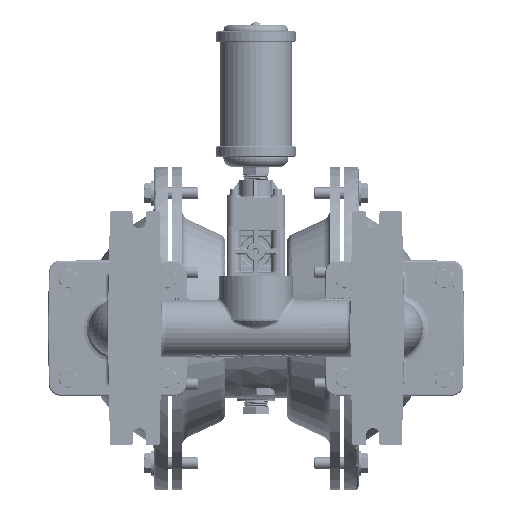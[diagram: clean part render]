
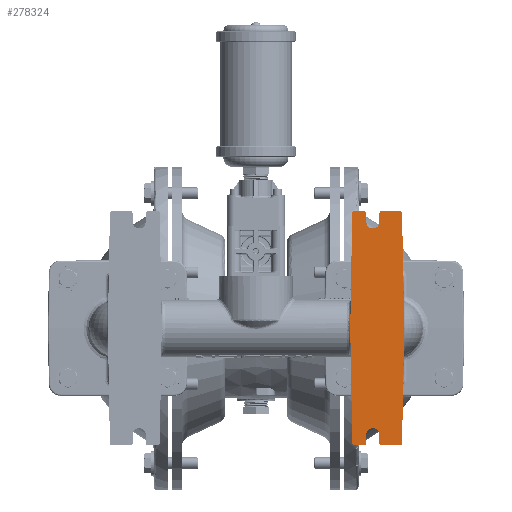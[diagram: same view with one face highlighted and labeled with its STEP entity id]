
A CAD part, front view. The second image highlights one B-rep face of the part: STEP entity #278324.
In plain terms, the highlighted planar face has unit normal (0, -1, 0).
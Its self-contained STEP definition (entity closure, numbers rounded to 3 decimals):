
#38768=DIRECTION('',(-0.017,0.,1.));
#38769=VECTOR('',#38768,4.942);
#38770=CARTESIAN_POINT('',(4.118,-12.94,-4.941));
#38771=LINE('',#38770,#38769);
#38844=DIRECTION('',(-1.,0.,0.));
#38845=VECTOR('',#38844,0.848);
#38846=CARTESIAN_POINT('',(6.19,-12.94,5.));
#38847=LINE('',#38846,#38845);
#38860=CARTESIAN_POINT('',(5.342,-12.94,4.94));
#38861=DIRECTION('',(0.,1.,0.));
#38862=DIRECTION('',(-1.,0.,0.009));
#38863=AXIS2_PLACEMENT_3D('',#38860,#38861,#38862);
#38870=DIRECTION('',(-0.009,0.,-1.));
#38871=VECTOR('',#38870,0.393);
#38872=CARTESIAN_POINT('',(5.282,-12.94,4.941));
#38873=LINE('',#38872,#38871);
#38886=CARTESIAN_POINT('',(4.999,-12.94,4.55));
#38887=DIRECTION('',(0.,-1.,0.));
#38888=DIRECTION('',(-1.,0.,-0.009));
#38889=AXIS2_PLACEMENT_3D('',#38886,#38887,#38888);
#39020=DIRECTION('',(-0.009,0.,1.));
#39021=VECTOR('',#39020,0.393);
#39022=CARTESIAN_POINT('',(4.719,-12.94,4.548));
#39023=LINE('',#39022,#39021);
#39032=CARTESIAN_POINT('',(4.656,-12.94,4.94));
#39033=DIRECTION('',(0.,1.,0.));
#39034=DIRECTION('',(0.,0.,1.));
#39035=AXIS2_PLACEMENT_3D('',#39032,#39033,#39034);
#39042=DIRECTION('',(-1.,0.,0.));
#39043=VECTOR('',#39042,0.478);
#39044=CARTESIAN_POINT('',(4.656,-12.94,5.));
#39045=LINE('',#39044,#39043);
#39058=CARTESIAN_POINT('',(4.178,-12.94,4.94));
#39059=DIRECTION('',(0.,-1.,0.));
#39060=DIRECTION('',(0.,0.,1.));
#39061=AXIS2_PLACEMENT_3D('',#39058,#39059,#39060);
#39068=DIRECTION('',(0.017,0.,1.));
#39069=VECTOR('',#39068,4.942);
#39070=CARTESIAN_POINT('',(4.032,-12.94,0.));
#39071=LINE('',#39070,#39069);
#39557=CARTESIAN_POINT('',(6.19,-12.94,4.94));
#39558=DIRECTION('',(0.,1.,0.));
#39559=DIRECTION('',(0.,0.,1.));
#39560=AXIS2_PLACEMENT_3D('',#39557,#39558,#39559);
#39567=DIRECTION('',(0.017,0.,-1.));
#39568=VECTOR('',#39567,4.942);
#39569=CARTESIAN_POINT('',(6.25,-12.94,4.941));
#39570=LINE('',#39569,#39568);
#40986=CARTESIAN_POINT('',(6.19,-12.94,-4.94));
#40987=DIRECTION('',(0.,-1.,0.));
#40988=DIRECTION('',(0.,0.,-1.));
#40989=AXIS2_PLACEMENT_3D('',#40986,#40987,#40988);
#40996=DIRECTION('',(-0.017,0.,-1.));
#40997=VECTOR('',#40996,4.942);
#40998=CARTESIAN_POINT('',(6.336,-12.94,0.));
#40999=LINE('',#40998,#40997);
#41678=DIRECTION('',(1.,0.,0.));
#41679=VECTOR('',#41678,0.848);
#41680=CARTESIAN_POINT('',(5.342,-12.94,-5.));
#41681=LINE('',#41680,#41679);
#41704=CARTESIAN_POINT('',(5.342,-12.94,-4.94));
#41705=DIRECTION('',(0.,1.,0.));
#41706=DIRECTION('',(0.,0.,-1.));
#41707=AXIS2_PLACEMENT_3D('',#41704,#41705,#41706);
#41714=DIRECTION('',(0.009,0.,-1.));
#41715=VECTOR('',#41714,0.393);
#41716=CARTESIAN_POINT('',(5.279,-12.94,-4.548));
#41717=LINE('',#41716,#41715);
#41746=CARTESIAN_POINT('',(4.656,-12.94,-4.94));
#41747=DIRECTION('',(0.,1.,0.));
#41748=DIRECTION('',(1.,0.,-0.009));
#41749=AXIS2_PLACEMENT_3D('',#41746,#41747,#41748);
#41756=DIRECTION('',(0.009,0.,1.));
#41757=VECTOR('',#41756,0.393);
#41758=CARTESIAN_POINT('',(4.716,-12.94,-4.941));
#41759=LINE('',#41758,#41757);
#41772=CARTESIAN_POINT('',(4.999,-12.94,-4.55));
#41773=DIRECTION('',(0.,-1.,0.));
#41774=DIRECTION('',(1.,0.,0.009));
#41775=AXIS2_PLACEMENT_3D('',#41772,#41773,#41774);
#41906=DIRECTION('',(1.,0.,0.));
#41907=VECTOR('',#41906,0.478);
#41908=CARTESIAN_POINT('',(4.178,-12.94,-5.));
#41909=LINE('',#41908,#41907);
#41932=CARTESIAN_POINT('',(4.178,-12.94,-4.94));
#41933=DIRECTION('',(0.,1.,0.));
#41934=DIRECTION('',(0.,0.,-1.));
#41935=AXIS2_PLACEMENT_3D('',#41932,#41933,#41934);
#240567=CARTESIAN_POINT('',(6.19,-12.94,5.));
#240568=CARTESIAN_POINT('',(5.342,-12.94,5.));
#240569=VERTEX_POINT('',#240567);
#240570=VERTEX_POINT('',#240568);
#240571=CARTESIAN_POINT('',(4.656,-12.94,5.));
#240572=CARTESIAN_POINT('',(4.178,-12.94,5.));
#240573=VERTEX_POINT('',#240571);
#240574=VERTEX_POINT('',#240572);
#240575=CARTESIAN_POINT('',(4.178,-12.94,-5.));
#240576=CARTESIAN_POINT('',(4.656,-12.94,-5.));
#240577=VERTEX_POINT('',#240575);
#240578=VERTEX_POINT('',#240576);
#240579=CARTESIAN_POINT('',(5.342,-12.94,-5.));
#240580=CARTESIAN_POINT('',(6.19,-12.94,-5.));
#240581=VERTEX_POINT('',#240579);
#240582=VERTEX_POINT('',#240580);
#240583=CARTESIAN_POINT('',(6.25,-12.94,4.941));
#240584=CARTESIAN_POINT('',(6.336,-12.94,0.));
#240585=VERTEX_POINT('',#240583);
#240586=VERTEX_POINT('',#240584);
#240587=CARTESIAN_POINT('',(4.118,-12.94,-4.941));
#240588=CARTESIAN_POINT('',(4.032,-12.94,0.));
#240589=VERTEX_POINT('',#240587);
#240590=VERTEX_POINT('',#240588);
#240872=CARTESIAN_POINT('',(5.282,-12.94,4.941));
#240873=CARTESIAN_POINT('',(5.279,-12.94,4.548));
#240874=VERTEX_POINT('',#240872);
#240875=VERTEX_POINT('',#240873);
#240876=CARTESIAN_POINT('',(4.719,-12.94,4.548));
#240877=VERTEX_POINT('',#240876);
#240878=CARTESIAN_POINT('',(4.716,-12.94,4.941));
#240879=VERTEX_POINT('',#240878);
#240880=CARTESIAN_POINT('',(4.716,-12.94,-4.941));
#240881=CARTESIAN_POINT('',(4.719,-12.94,-4.548));
#240882=VERTEX_POINT('',#240880);
#240883=VERTEX_POINT('',#240881);
#240884=CARTESIAN_POINT('',(5.279,-12.94,-4.548));
#240885=VERTEX_POINT('',#240884);
#240886=CARTESIAN_POINT('',(5.282,-12.94,-4.941));
#240887=VERTEX_POINT('',#240886);
#240949=CARTESIAN_POINT('',(6.25,-12.94,-4.941));
#240950=VERTEX_POINT('',#240949);
#240953=CARTESIAN_POINT('',(4.118,-12.94,4.941));
#240954=VERTEX_POINT('',#240953);
#278274=CARTESIAN_POINT('',(6.549,-12.94,-6.));
#278275=DIRECTION('',(0.,1.,0.));
#278276=DIRECTION('',(-1.,0.,0.));
#278277=AXIS2_PLACEMENT_3D('',#278274,#278275,#278276);
#278278=PLANE('',#278277);
#278280=ORIENTED_EDGE('',*,*,#278279,.F.);
#278282=ORIENTED_EDGE('',*,*,#278281,.T.);
#278284=ORIENTED_EDGE('',*,*,#278283,.T.);
#278286=ORIENTED_EDGE('',*,*,#278285,.T.);
#278288=ORIENTED_EDGE('',*,*,#278287,.F.);
#278290=ORIENTED_EDGE('',*,*,#278289,.F.);
#278292=ORIENTED_EDGE('',*,*,#278291,.T.);
#278294=ORIENTED_EDGE('',*,*,#278293,.F.);
#278296=ORIENTED_EDGE('',*,*,#278295,.T.);
#278298=ORIENTED_EDGE('',*,*,#278297,.F.);
#278300=ORIENTED_EDGE('',*,*,#278299,.T.);
#278302=ORIENTED_EDGE('',*,*,#278301,.F.);
#278304=ORIENTED_EDGE('',*,*,#278303,.T.);
#278305=ORIENTED_EDGE('',*,*,#278260,.T.);
#278307=ORIENTED_EDGE('',*,*,#278306,.T.);
#278309=ORIENTED_EDGE('',*,*,#278308,.F.);
#278311=ORIENTED_EDGE('',*,*,#278310,.F.);
#278313=ORIENTED_EDGE('',*,*,#278312,.T.);
#278315=ORIENTED_EDGE('',*,*,#278314,.F.);
#278317=ORIENTED_EDGE('',*,*,#278316,.T.);
#278319=ORIENTED_EDGE('',*,*,#278318,.F.);
#278321=ORIENTED_EDGE('',*,*,#278320,.T.);
#278322=EDGE_LOOP('',(#278280,#278282,#278284,#278286,#278288,#278290,#278292,
#278294,#278296,#278298,#278300,#278302,#278304,#278305,#278307,#278309,#278311,
#278313,#278315,#278317,#278319,#278321));
#278323=FACE_OUTER_BOUND('',#278322,.F.);
#278324=ADVANCED_FACE('',(#278323),#278278,.F.);
#38864=CIRCLE('',#38863,0.06);
#38890=CIRCLE('',#38889,0.28);
#39036=CIRCLE('',#39035,0.06);
#39062=CIRCLE('',#39061,0.06);
#39561=CIRCLE('',#39560,0.06);
#40990=CIRCLE('',#40989,0.06);
#41708=CIRCLE('',#41707,0.06);
#41750=CIRCLE('',#41749,0.06);
#41776=CIRCLE('',#41775,0.28);
#41936=CIRCLE('',#41935,0.06);
#278260=EDGE_CURVE('',#240589,#240590,#38771,.T.);
#278279=EDGE_CURVE('',#240569,#240570,#38847,.T.);
#278281=EDGE_CURVE('',#240569,#240585,#39561,.T.);
#278283=EDGE_CURVE('',#240585,#240586,#39570,.T.);
#278285=EDGE_CURVE('',#240586,#240950,#40999,.T.);
#278287=EDGE_CURVE('',#240582,#240950,#40990,.T.);
#278289=EDGE_CURVE('',#240581,#240582,#41681,.T.);
#278291=EDGE_CURVE('',#240581,#240887,#41708,.T.);
#278293=EDGE_CURVE('',#240885,#240887,#41717,.T.);
#278295=EDGE_CURVE('',#240885,#240883,#41776,.T.);
#278297=EDGE_CURVE('',#240882,#240883,#41759,.T.);
#278299=EDGE_CURVE('',#240882,#240578,#41750,.T.);
#278301=EDGE_CURVE('',#240577,#240578,#41909,.T.);
#278303=EDGE_CURVE('',#240577,#240589,#41936,.T.);
#278306=EDGE_CURVE('',#240590,#240954,#39071,.T.);
#278308=EDGE_CURVE('',#240574,#240954,#39062,.T.);
#278310=EDGE_CURVE('',#240573,#240574,#39045,.T.);
#278312=EDGE_CURVE('',#240573,#240879,#39036,.T.);
#278314=EDGE_CURVE('',#240877,#240879,#39023,.T.);
#278316=EDGE_CURVE('',#240877,#240875,#38890,.T.);
#278318=EDGE_CURVE('',#240874,#240875,#38873,.T.);
#278320=EDGE_CURVE('',#240874,#240570,#38864,.T.);
